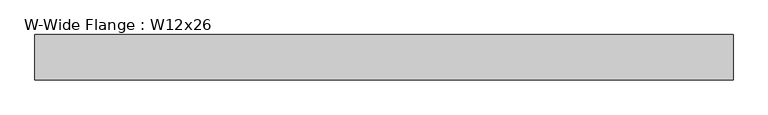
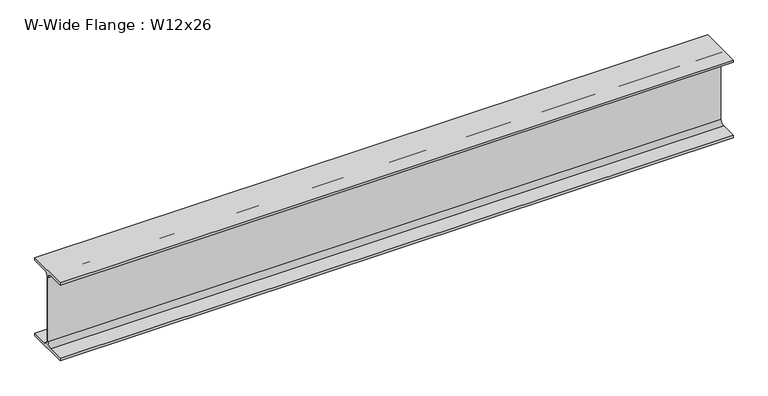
"""IFC4 building model written with IfcOpenShell, lengths in millimetres: beam geometry, W-Wide Flange : W12x26."""

from ifc_helpers import new_model, si_unit, point, frame, frame_2d, origin, place, context, project, spatial, polyline, circle_curve, trimmed, segment, composite_curve, outline, extrude, source, transform, mapped, element, save


def w_wide_flange_w12x26_89bd5c3d(model_context):
    return source(origin(), model_context, "Body", "SweptSolid", [
        extrude(outline(composite_curve([segment(polyline([(82.423, -145.288), (82.423, -154.94), (-82.423, -154.94), (-82.423, -145.288), (-20.2565, -145.288)]), True, "CONTINUOUS"), segment(trimmed(circle_curve(frame_2d((-20.2565, -127.9525)), 17.3355), [point((-20.2565, -145.288))], [point((-2.921, -127.9525))], True, "CARTESIAN"), True, "CONTINUOUS"), segment(polyline([(-2.921, -127.9525), (-2.921, 127.9525)]), True, "CONTINUOUS"), segment(trimmed(circle_curve(frame_2d((-20.2565, 127.9525)), 17.3355), [point((-2.921, 127.9525))], [point((-20.2565, 145.288))], True, "CARTESIAN"), True, "CONTINUOUS"), segment(polyline([(-20.2565, 145.288), (-82.423, 145.288), (-82.423, 154.94), (82.423, 154.94), (82.423, 145.288), (20.2565, 145.288)]), True, "CONTINUOUS"), segment(trimmed(circle_curve(frame_2d((20.2565, 127.9525)), 17.3355), [point((20.2565, 145.288))], [point((2.921, 127.9525))], True, "CARTESIAN"), True, "CONTINUOUS"), segment(polyline([(2.921, 127.9525), (2.921, -127.9525)]), True, "CONTINUOUS"), segment(trimmed(circle_curve(frame_2d((20.2565, -127.9525)), 17.3355), [point((2.921, -127.9525))], [point((20.2565, -145.288))], True, "CARTESIAN"), True, "CONTINUOUS"), segment(polyline([(20.2565, -145.288), (82.423, -145.288)]), True, "CONTINUOUS")], self_intersect=False)), frame((-1229.1695, 0.0, 0.0), z_axis=(1.0, 0.0, 0.0), x_axis=(0.0, 1.0, 0.0)), (0.0, 0.0, 1.0), 2532.888),
    ])


if __name__ == "__main__":
    model = new_model("IFC4")
    model_context = context("Model", 3, world=origin())
    ifc_project = project(units=[si_unit("LENGTHUNIT", "METRE", prefix="MILLI")], contexts=[model_context])
    site = spatial("IfcSite", under=ifc_project)
    building = spatial("IfcBuilding", under=site)
    placement = place(None, origin())
    w_wide_flange_w12x26_shape = w_wide_flange_w12x26_89bd5c3d(model_context)
    element("IfcBeam", 1, ObjectType="W-Wide Flange : W12x26", at=placement, inside=building, context=model_context, shape_type="MappedRepresentation", body=[
        mapped(w_wide_flange_w12x26_shape, transform((0.0, 0.0, 0.0), x_axis=(1.0, 0.0, 0.0), y_axis=(0.0, 1.0, 0.0), z_axis=(0.0, 0.0, 1.0))),
    ])
    save(model, "model.ifc")
